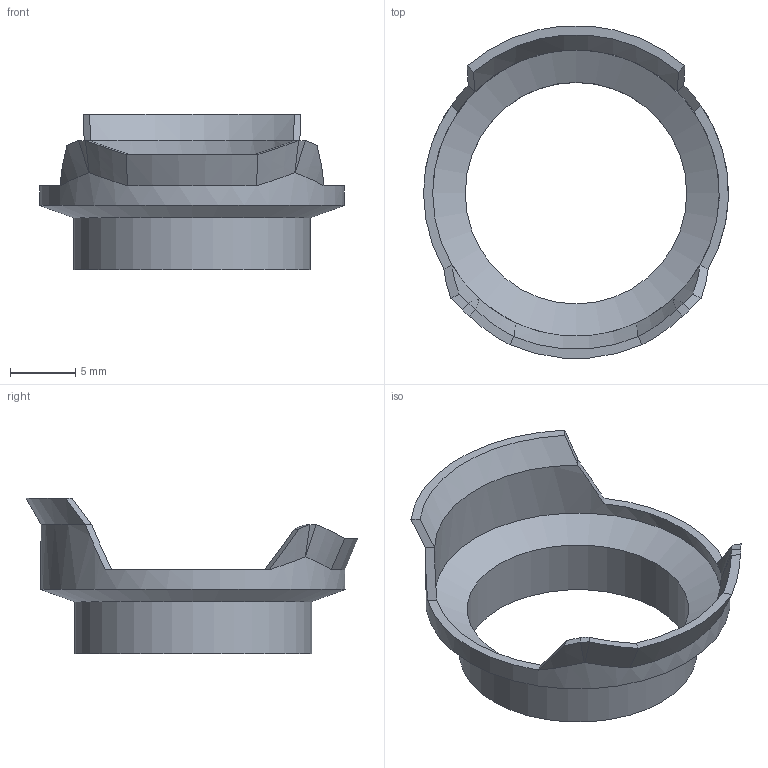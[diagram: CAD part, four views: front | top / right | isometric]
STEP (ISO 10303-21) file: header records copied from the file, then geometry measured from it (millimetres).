
FILE_DESCRIPTION(/* description */ ('','CAx-IF Rec.Pracs.---Representation and Presentation of Product Manufacturing Information (PMI)---4.0---2014-10-13'),/* implementation_level */ '2;1');
FILE_NAME(/* name */ 'Tesla HW3 Rear Camera Shield.step',/* time_stamp */ '2025-02-09T00:42:58-05:00',/* author */ (''),/* organization */ (''),/* preprocessor_version */ 'ST-DEVELOPER v20',/* originating_system */ 'Autodesk Translation Framework v13.20.0.188',/* authorisation */ '');
FILE_SCHEMA (('AP242_MANAGED_MODEL_BASED_3D_ENGINEERING_MIM_LF { 1 0 10303 442 1 1 4 }'));
Length unit declared in the file: millimetre
Products named in the file (1): Tesla Model Y HW3 Rear Camera Shield
Bounding box: 23.4 x 25.47 x 11.95 mm (x, y, z)
Volume: 418 mm3; surface area: 1431 mm2
Topology: 1 solids, 1 shells, 43 faces, 98 edges, 56 vertices
Faces by surface type: bspline 18, plane 15, cone 6, cylinder 4
Full cylindrical faces by diameter (mm): 17 x1, 18.2 x1, 22 x1, 23.4 x1
Entity records: 1473 total; most frequent: CARTESIAN_POINT 596, ORIENTED_EDGE 196, DIRECTION 148, EDGE_CURVE 98, AXIS2_PLACEMENT_3D 64, VERTEX_POINT 56, EDGE_LOOP 44, FACE_OUTER_BOUND 43
